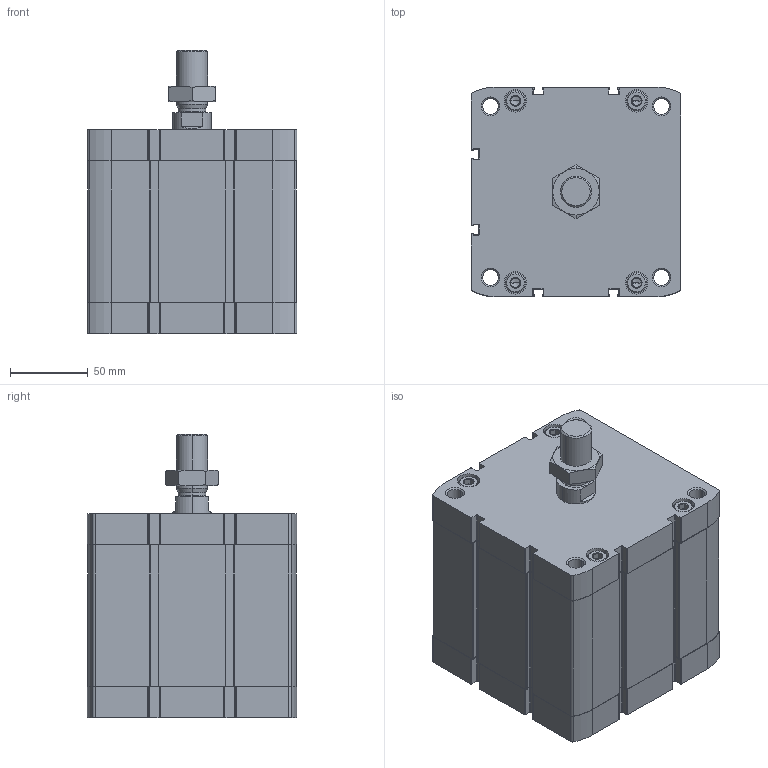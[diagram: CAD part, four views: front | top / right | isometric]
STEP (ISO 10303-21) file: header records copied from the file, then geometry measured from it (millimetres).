
FILE_DESCRIPTION (( 'STEP AP203' ), '1' );
FILE_NAME ('CCN125-50M.STEP', '2020-06-05T19:22:51', ( '' ), ( '' ), 'SwSTEP 2.0', 'SolidWorks 2019', '' );
FILE_SCHEMA (( 'CONFIG_CONTROL_DESIGN' ));
Length unit declared in the file: millimetre
Products named in the file (1): CCN125-50M
Bounding box: 134.6 x 134.6 x 182 mm (x, y, z)
Volume: 1700540.2 mm3; surface area: 244640.7 mm2
Topology: 3 solids, 3 shells, 555 faces, 1412 edges, 886 vertices
Faces by surface type: plane 275, cylinder 196, cone 80, torus 4
Entity records: 18163 total; most frequent: CARTESIAN_POINT 4452, DIRECTION 2966, ORIENTED_EDGE 2792, EDGE_CURVE 1396, AXIS2_PLACEMENT_3D 1092, VERTEX_POINT 886, VECTOR 782, LINE 782
